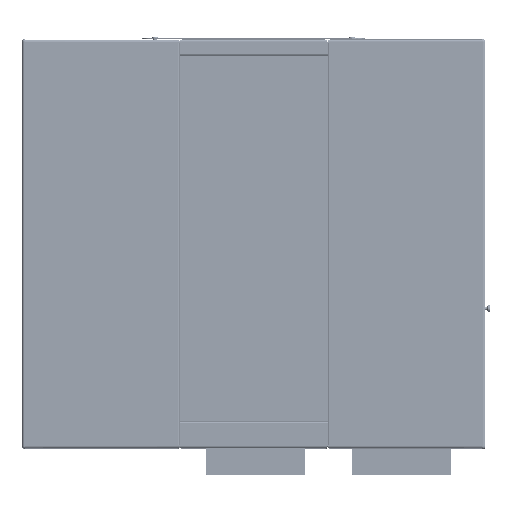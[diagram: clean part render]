
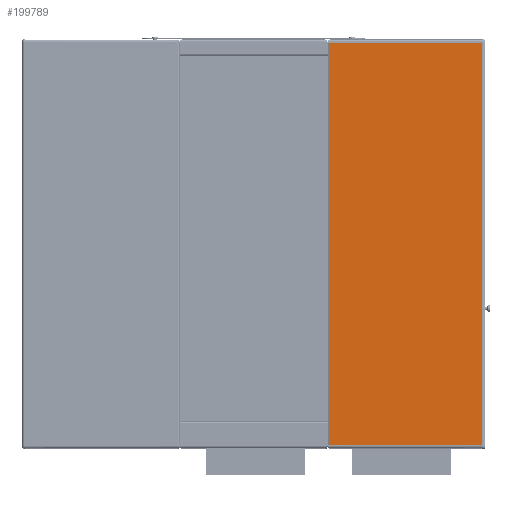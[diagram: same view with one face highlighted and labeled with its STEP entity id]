
A CAD part, top view. The second image highlights one B-rep face of the part: STEP entity #199789.
In plain terms, the highlighted planar face has unit normal (0, 0, 1) as drawn and (0, 1, 0) by its records, which use the part's own axes.
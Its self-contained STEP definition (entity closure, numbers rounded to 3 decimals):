
#19899=FACE_OUTER_BOUND('',#32087,.T.);
#32087=EDGE_LOOP('',(#145093,#145094,#145095,#145096));
#47762=LINE('',#323661,#68558);
#47764=LINE('',#323667,#68560);
#47765=LINE('',#323669,#68561);
#47766=LINE('',#323670,#68562);
#68558=VECTOR('',#242696,10.);
#68560=VECTOR('',#242702,10.);
#68561=VECTOR('',#242703,10.);
#68562=VECTOR('',#242704,10.);
#89186=VERTEX_POINT('',#323658);
#89187=VERTEX_POINT('',#323660);
#89189=VERTEX_POINT('',#323666);
#89190=VERTEX_POINT('',#323668);
#109311=EDGE_CURVE('',#89186,#89187,#47762,.T.);
#109314=EDGE_CURVE('',#89186,#89189,#47764,.T.);
#109315=EDGE_CURVE('',#89189,#89190,#47765,.T.);
#109316=EDGE_CURVE('',#89190,#89187,#47766,.T.);
#145093=ORIENTED_EDGE('',*,*,#109311,.F.);
#145094=ORIENTED_EDGE('',*,*,#109314,.T.);
#145095=ORIENTED_EDGE('',*,*,#109315,.T.);
#145096=ORIENTED_EDGE('',*,*,#109316,.T.);
#191100=PLANE('',#215141);
#199789=ADVANCED_FACE('',(#19899),#191100,.T.);
#215141=AXIS2_PLACEMENT_3D('',#323665,#242700,#242701);
#242696=DIRECTION('',(0.,0.,-1.));
#242700=DIRECTION('center_axis',(0.,1.,0.));
#242701=DIRECTION('ref_axis',(0.,0.,1.));
#242702=DIRECTION('',(1.,0.,0.));
#242703=DIRECTION('',(0.,0.,-1.));
#242704=DIRECTION('',(-1.,0.,0.));
#323658=CARTESIAN_POINT('',(9.5,2254.,1.));
#323660=CARTESIAN_POINT('',(9.5,2254.,-2481.));
#323661=CARTESIAN_POINT('',(9.5,2254.,-1860.5));
#323665=CARTESIAN_POINT('Origin',(-456.,2254.,-1240.));
#323666=CARTESIAN_POINT('',(952.5,2254.,1.));
#323667=CARTESIAN_POINT('',(952.5,2254.,1.));
#323668=CARTESIAN_POINT('',(952.5,2254.,-2481.));
#323669=CARTESIAN_POINT('',(952.5,2254.,-2481.));
#323670=CARTESIAN_POINT('',(-0.5,2254.,-2481.));
